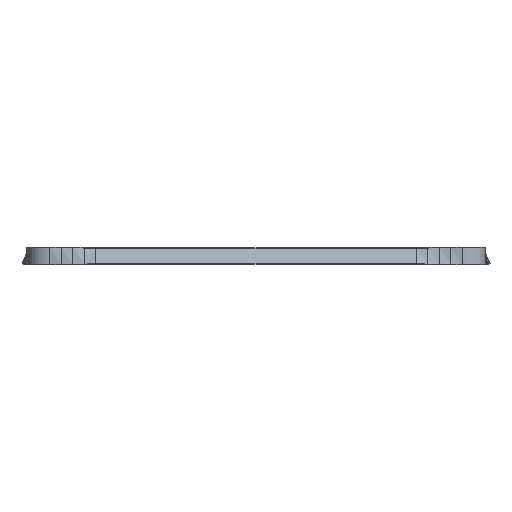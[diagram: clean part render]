
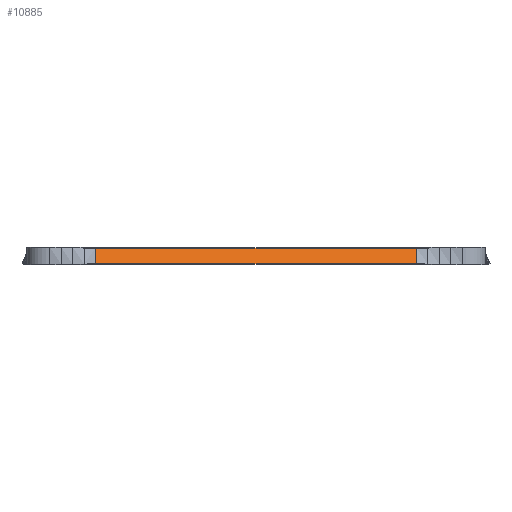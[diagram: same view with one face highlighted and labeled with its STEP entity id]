
A CAD part, left-side view. The second image highlights one B-rep face of the part: STEP entity #10885.
In plain terms, the highlighted planar face has unit normal (-0.906, 0, 0.423).
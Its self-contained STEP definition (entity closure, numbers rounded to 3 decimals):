
#10885 = ADVANCED_FACE('',(#10886),#10900,.F.);
#10886 = FACE_BOUND('',#10887,.F.);
#10887 = EDGE_LOOP('',(#10888,#10923,#10948,#10976));
#10888 = ORIENTED_EDGE('',*,*,#10889,.T.);
#10889 = EDGE_CURVE('',#10890,#10892,#10894,.T.);
#10890 = VERTEX_POINT('',#10891);
#10891 = CARTESIAN_POINT('',(-179.378,112.,10.638));
#10892 = VERTEX_POINT('',#10893);
#10893 = CARTESIAN_POINT('',(-174.222,112.,21.695));
#10894 = SURFACE_CURVE('',#10895,(#10899,#10911),.PCURVE_S1.);
#10895 = LINE('',#10896,#10897);
#10896 = CARTESIAN_POINT('',(-179.378,112.,10.638));
#10897 = VECTOR('',#10898,1.);
#10898 = DIRECTION('',(0.423,0.,0.906));
#10899 = PCURVE('',#10900,#10905);
#10900 = PLANE('',#10901);
#10901 = AXIS2_PLACEMENT_3D('',#10902,#10903,#10904);
#10902 = CARTESIAN_POINT('',(-179.378,-112.,10.638));
#10903 = DIRECTION('',(0.906,0.,-0.423));
#10904 = DIRECTION('',(0.423,0.,0.906));
#10905 = DEFINITIONAL_REPRESENTATION('',(#10906),#10910);
#10906 = LINE('',#10907,#10908);
#10907 = CARTESIAN_POINT('',(0.,-224.));
#10908 = VECTOR('',#10909,1.);
#10909 = DIRECTION('',(1.,0.));
#10910 = ( GEOMETRIC_REPRESENTATION_CONTEXT(2) 
PARAMETRIC_REPRESENTATION_CONTEXT() REPRESENTATION_CONTEXT('2D SPACE',''
  ) );
#10911 = PCURVE('',#10912,#10917);
#10912 = PLANE('',#10913);
#10913 = AXIS2_PLACEMENT_3D('',#10914,#10915,#10916);
#10914 = CARTESIAN_POINT('',(-179.378,112.,10.638));
#10915 = DIRECTION('',(-0.,1.,0.));
#10916 = DIRECTION('',(0.502,0.,0.865));
#10917 = DEFINITIONAL_REPRESENTATION('',(#10918),#10922);
#10918 = LINE('',#10919,#10920);
#10919 = CARTESIAN_POINT('',(0.,0.));
#10920 = VECTOR('',#10921,1.);
#10921 = DIRECTION('',(0.996,-0.09));
#10922 = ( GEOMETRIC_REPRESENTATION_CONTEXT(2) 
PARAMETRIC_REPRESENTATION_CONTEXT() REPRESENTATION_CONTEXT('2D SPACE',''
  ) );
#10923 = ORIENTED_EDGE('',*,*,#10924,.T.);
#10924 = EDGE_CURVE('',#10892,#10925,#10927,.T.);
#10925 = VERTEX_POINT('',#10926);
#10926 = CARTESIAN_POINT('',(-174.222,-112.,21.695));
#10927 = SURFACE_CURVE('',#10928,(#10931,#10937),.PCURVE_S1.);
#10928 = B_SPLINE_CURVE_WITH_KNOTS('',1,(#10929,#10930),.UNSPECIFIED.,
  .F.,.F.,(2,2),(0.,1.),.PIECEWISE_BEZIER_KNOTS.);
#10929 = CARTESIAN_POINT('',(-174.222,112.,21.695));
#10930 = CARTESIAN_POINT('',(-174.222,-112.,21.695));
#10931 = PCURVE('',#10900,#10932);
#10932 = DEFINITIONAL_REPRESENTATION('',(#10933),#10936);
#10933 = B_SPLINE_CURVE_WITH_KNOTS('',1,(#10934,#10935),.UNSPECIFIED.,
  .F.,.F.,(2,2),(0.,1.),.PIECEWISE_BEZIER_KNOTS.);
#10934 = CARTESIAN_POINT('',(12.2,-224.));
#10935 = CARTESIAN_POINT('',(12.2,0.));
#10936 = ( GEOMETRIC_REPRESENTATION_CONTEXT(2) 
PARAMETRIC_REPRESENTATION_CONTEXT() REPRESENTATION_CONTEXT('2D SPACE',''
  ) );
#10937 = PCURVE('',#10938,#10943);
#10938 = PLANE('',#10939);
#10939 = AXIS2_PLACEMENT_3D('',#10940,#10941,#10942);
#10940 = CARTESIAN_POINT('',(-174.222,-112.,21.695));
#10941 = DIRECTION('',(-0.423,-0.,-0.906));
#10942 = DIRECTION('',(0.906,0.,-0.423));
#10943 = DEFINITIONAL_REPRESENTATION('',(#10944),#10947);
#10944 = B_SPLINE_CURVE_WITH_KNOTS('',1,(#10945,#10946),.UNSPECIFIED.,
  .F.,.F.,(2,2),(0.,1.),.PIECEWISE_BEZIER_KNOTS.);
#10945 = CARTESIAN_POINT('',(0.,-224.));
#10946 = CARTESIAN_POINT('',(0.,0.));
#10947 = ( GEOMETRIC_REPRESENTATION_CONTEXT(2) 
PARAMETRIC_REPRESENTATION_CONTEXT() REPRESENTATION_CONTEXT('2D SPACE',''
  ) );
#10948 = ORIENTED_EDGE('',*,*,#10949,.F.);
#10949 = EDGE_CURVE('',#10950,#10925,#10952,.T.);
#10950 = VERTEX_POINT('',#10951);
#10951 = CARTESIAN_POINT('',(-179.378,-112.,10.638));
#10952 = SURFACE_CURVE('',#10953,(#10957,#10964),.PCURVE_S1.);
#10953 = LINE('',#10954,#10955);
#10954 = CARTESIAN_POINT('',(-179.378,-112.,10.638));
#10955 = VECTOR('',#10956,1.);
#10956 = DIRECTION('',(0.423,0.,0.906));
#10957 = PCURVE('',#10900,#10958);
#10958 = DEFINITIONAL_REPRESENTATION('',(#10959),#10963);
#10959 = LINE('',#10960,#10961);
#10960 = CARTESIAN_POINT('',(0.,0.));
#10961 = VECTOR('',#10962,1.);
#10962 = DIRECTION('',(1.,0.));
#10963 = ( GEOMETRIC_REPRESENTATION_CONTEXT(2) 
PARAMETRIC_REPRESENTATION_CONTEXT() REPRESENTATION_CONTEXT('2D SPACE',''
  ) );
#10964 = PCURVE('',#10965,#10970);
#10965 = PLANE('',#10966);
#10966 = AXIS2_PLACEMENT_3D('',#10967,#10968,#10969);
#10967 = CARTESIAN_POINT('',(-179.378,-112.,10.638));
#10968 = DIRECTION('',(-0.,1.,0.));
#10969 = DIRECTION('',(0.502,0.,0.865));
#10970 = DEFINITIONAL_REPRESENTATION('',(#10971),#10975);
#10971 = LINE('',#10972,#10973);
#10972 = CARTESIAN_POINT('',(0.,0.));
#10973 = VECTOR('',#10974,1.);
#10974 = DIRECTION('',(0.996,-0.09));
#10975 = ( GEOMETRIC_REPRESENTATION_CONTEXT(2) 
PARAMETRIC_REPRESENTATION_CONTEXT() REPRESENTATION_CONTEXT('2D SPACE',''
  ) );
#10976 = ORIENTED_EDGE('',*,*,#10977,.F.);
#10977 = EDGE_CURVE('',#10890,#10950,#10978,.T.);
#10978 = SURFACE_CURVE('',#10979,(#10982,#10988),.PCURVE_S1.);
#10979 = B_SPLINE_CURVE_WITH_KNOTS('',1,(#10980,#10981),.UNSPECIFIED.,
  .F.,.F.,(2,2),(0.,1.),.PIECEWISE_BEZIER_KNOTS.);
#10980 = CARTESIAN_POINT('',(-179.378,112.,10.638));
#10981 = CARTESIAN_POINT('',(-179.378,-112.,10.638));
#10982 = PCURVE('',#10900,#10983);
#10983 = DEFINITIONAL_REPRESENTATION('',(#10984),#10987);
#10984 = B_SPLINE_CURVE_WITH_KNOTS('',1,(#10985,#10986),.UNSPECIFIED.,
  .F.,.F.,(2,2),(0.,1.),.PIECEWISE_BEZIER_KNOTS.);
#10985 = CARTESIAN_POINT('',(0.,-224.));
#10986 = CARTESIAN_POINT('',(0.,0.));
#10987 = ( GEOMETRIC_REPRESENTATION_CONTEXT(2) 
PARAMETRIC_REPRESENTATION_CONTEXT() REPRESENTATION_CONTEXT('2D SPACE',''
  ) );
#10988 = PCURVE('',#10989,#10994);
#10989 = PLANE('',#10990);
#10990 = AXIS2_PLACEMENT_3D('',#10991,#10992,#10993);
#10991 = CARTESIAN_POINT('',(-178.381,-112.,10.173));
#10992 = DIRECTION('',(0.423,0.,0.906));
#10993 = DIRECTION('',(-0.906,0.,0.423));
#10994 = DEFINITIONAL_REPRESENTATION('',(#10995),#10998);
#10995 = B_SPLINE_CURVE_WITH_KNOTS('',1,(#10996,#10997),.UNSPECIFIED.,
  .F.,.F.,(2,2),(0.,1.),.PIECEWISE_BEZIER_KNOTS.);
#10996 = CARTESIAN_POINT('',(1.1,-224.));
#10997 = CARTESIAN_POINT('',(1.1,0.));
#10998 = ( GEOMETRIC_REPRESENTATION_CONTEXT(2) 
PARAMETRIC_REPRESENTATION_CONTEXT() REPRESENTATION_CONTEXT('2D SPACE',''
  ) );
